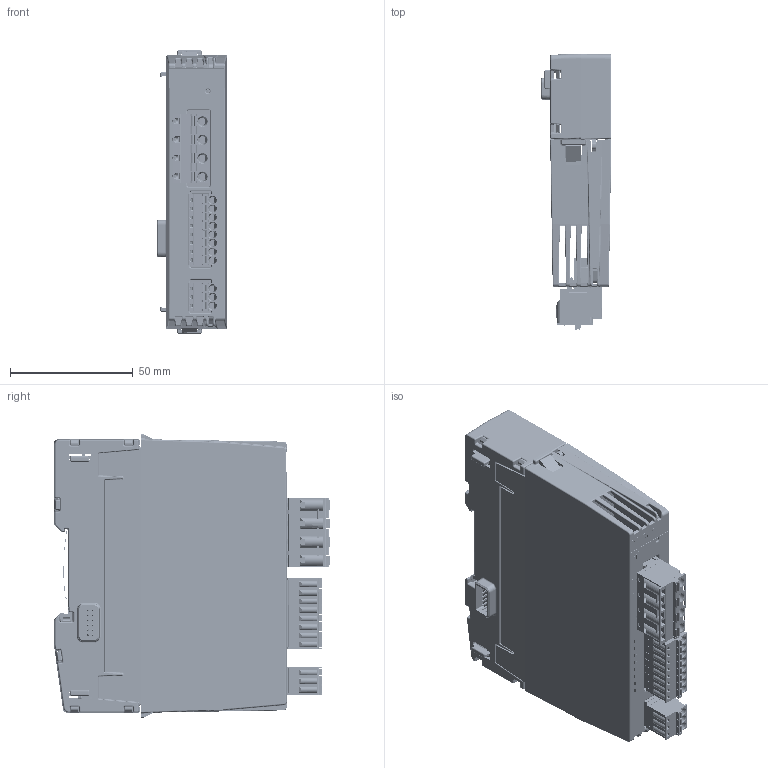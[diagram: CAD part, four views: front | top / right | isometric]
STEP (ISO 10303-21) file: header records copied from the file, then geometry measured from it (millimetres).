
FILE_DESCRIPTION(/* description */ (''),/* implementation_level */ '2;1');
FILE_NAME(/* name */ 'C:\Users\Public\Documents\Autodesk\Inventor 2023\PM04C_Simplified+BackBB21C.stp',/* time_stamp */ '2024-10-18T22:34:49+02:00',/* author */ ('shoma'),/* organization */ (''),/* preprocessor_version */ 'ST-DEVELOPER v19',/* originating_system */ 'Autodesk Inventor 2023',/* authorisation */ '');
FILE_SCHEMA (('AUTOMOTIVE_DESIGN { 1 0 10303 214 3 1 1 }'));
Products named in the file (1): PM04C_Simplified+BackBB21C
Bounding box: 28.9 x 112.6 x 115.5 mm (x, y, z)
Volume: 135859.4 mm3; surface area: 89793.2 mm2
Topology: 8 solids, 43 shells, 8426 faces, 22541 edges, 14161 vertices
Faces by surface type: plane 5447, cylinder 2072, bspline 567, sphere 163, cone 135, torus 42
Full cylindrical faces by diameter (mm): 0.296 x2, 0.3 x36, 0.434 x1, 0.457 x2, 0.7 x36, 0.8 x6, 0.85 x24, 0.9 x8, 1.17 x11, 1.25 x11, 1.3 x11, 1.4 x8, 1.5 x4, 1.6 x9, 2.35 x2, 2.5 x1, 2.8 x3, 3 x5, 3.1 x11, 3.25 x2, 4 x4
Entity records: 285548 total; most frequent: CARTESIAN_POINT 66764, ORIENTED_EDGE 44736, DIRECTION 42409, EDGE_CURVE 22368, LINE 16367, VECTOR 16367, VERTEX_POINT 14157, AXIS2_PLACEMENT_3D 13021
